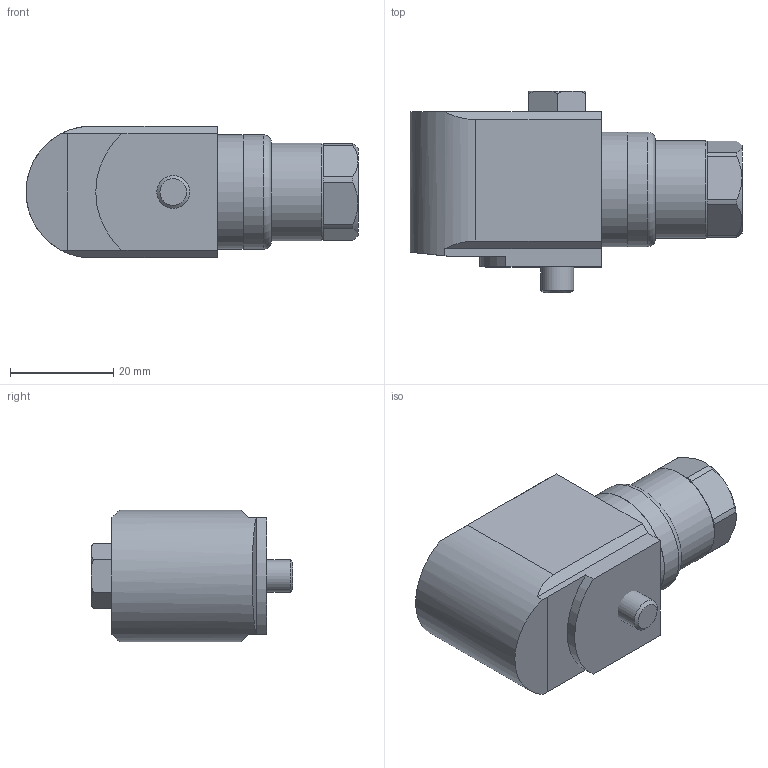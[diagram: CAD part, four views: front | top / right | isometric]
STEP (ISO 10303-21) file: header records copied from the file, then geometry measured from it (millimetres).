
FILE_DESCRIPTION(/* description */ (''),/* implementation_level */ '2;1');
FILE_NAME(/* name */ 'Z:\Engineering\Drawings\3D Library\Assemblies\Website\Premium Side\HS-150 Side Silicon\HS-150SXXX0702.stp',/* time_stamp */ '2023-03-12T13:48:38+00:00',/* author */ ('Ricardo.Peneda'),/* organization */ (''),/* preprocessor_version */ 'ST-DEVELOPER v18.1',/* originating_system */ 'Autodesk Inventor 2021',/* authorisation */ '');
FILE_SCHEMA (('AUTOMOTIVE_DESIGN { 1 0 10303 214 3 1 1 }'));
Length unit declared in the file: inch
Products named in the file (1): HS-150SXXX0702_Shrinkwrap_1
Bounding box: 64.25 x 39 x 25.5 mm (x, y, z)
Volume: 26402.2 mm3; surface area: 12193.4 mm2
Topology: 5 solids, 5 shells, 94 faces, 233 edges, 164 vertices
Faces by surface type: plane 48, cylinder 28, cone 17, torus 1
Full cylindrical faces by diameter (mm): 4.5 x1, 5.359 x1, 6.35 x1, 9 x1, 10 x1, 12 x2, 13 x1, 14 x1, 14.95 x1, 15 x2, 15.34 x1, 15.35 x1, 18 x1, 19 x1, 19.95 x1, 20 x1, 22.2 x2
Entity records: 3012 total; most frequent: CARTESIAN_POINT 540, DIRECTION 516, ORIENTED_EDGE 466, EDGE_CURVE 233, AXIS2_PLACEMENT_3D 212, VERTEX_POINT 164, EDGE_LOOP 115, CIRCLE 112
